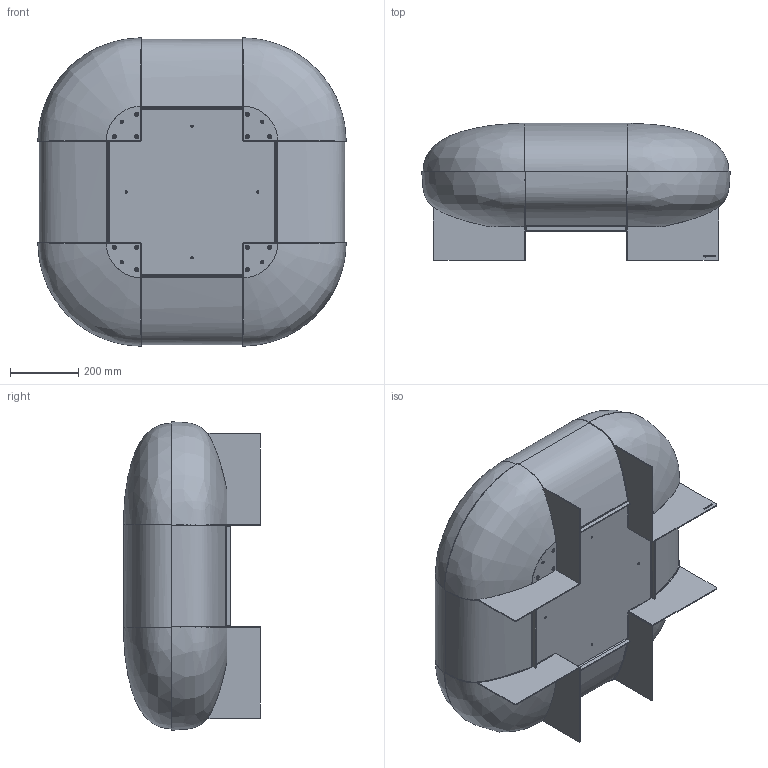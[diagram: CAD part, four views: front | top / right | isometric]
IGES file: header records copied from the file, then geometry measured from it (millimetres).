
Start section: SolidWorks IGES file using analytic representation for surfaces
Global section: file name: \\utenti\Dati Utenti\Tecnico\DC\2D - 3D per sito\3D\DeCastelli-3D-Ori.igs; native system: SolidWorks 2022; preprocessor: SolidWorks 2022; author: Simonep; date: 240729.120351; units: millimetre
Bounding box: 899.99 x 400 x 899.99 mm (x, y, z)
Surface area: 3534778.5 mm2 (no closed solid volume)
Topology: 0 solids, 0 shells, 174 faces, 3494 edges, 3490 vertices
Faces by surface type: bspline 142, revolution 32
